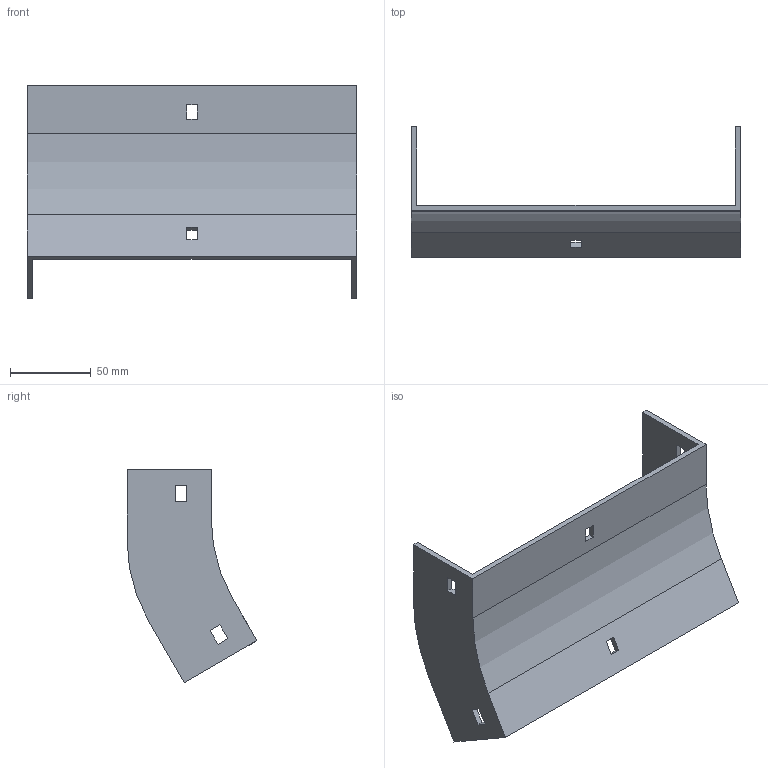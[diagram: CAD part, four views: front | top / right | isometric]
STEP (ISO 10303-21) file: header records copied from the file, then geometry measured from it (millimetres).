
FILE_DESCRIPTION (( 'STEP AP214' ), '1' );
FILE_NAME ('35F1B200.step', '2025-02-21T12:49:26', ( '' ), ( '' ), 'SwSTEP 2.0', 'SolidWorks 2023', '' );
FILE_SCHEMA (( 'AUTOMOTIVE_DESIGN' ));
Length unit declared in the file: millimetre
Products named in the file (1): 35F1B200
Bounding box: 204 x 80.4 x 131.98 mm (x, y, z)
Volume: 123132.9 mm3; surface area: 74136.8 mm2
Topology: 1 solids, 1 shells, 42 faces, 120 edges, 80 vertices
Faces by surface type: plane 38, cylinder 4
Entity records: 1399 total; most frequent: CARTESIAN_POINT 243, ORIENTED_EDGE 240, DIRECTION 214, EDGE_CURVE 120, LINE 112, VECTOR 112, VERTEX_POINT 80, EDGE_LOOP 54
